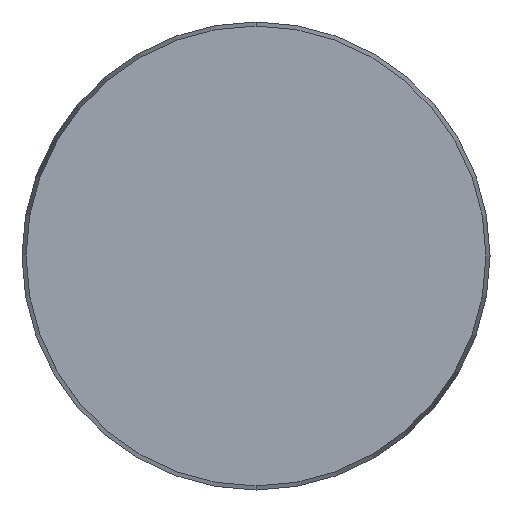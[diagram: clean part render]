
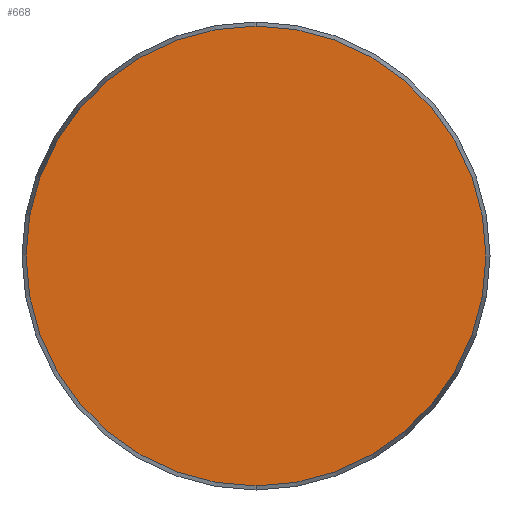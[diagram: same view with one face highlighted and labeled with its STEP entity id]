
A CAD part, front view. The second image highlights one B-rep face of the part: STEP entity #668.
In plain terms, the highlighted planar face has unit normal (0, -1, 0).
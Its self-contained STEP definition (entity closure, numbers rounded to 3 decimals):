
#22 = AXIS2_PLACEMENT_3D ( 'NONE', #513, #67, #498 ) ;
#43 = VERTEX_POINT ( 'NONE', #56 ) ;
#56 = CARTESIAN_POINT ( 'NONE',  ( 0., 0., 19.65 ) ) ;
#67 = DIRECTION ( 'NONE',  ( 0., 1., 0. ) ) ;
#71 = CARTESIAN_POINT ( 'NONE',  ( 0., 0., -19.65 ) ) ;
#128 = CARTESIAN_POINT ( 'NONE',  ( 0., 0., 0. ) ) ;
#152 = FACE_OUTER_BOUND ( 'NONE', #390, .T. ) ;
#188 = ORIENTED_EDGE ( 'NONE', *, *, #640, .F. ) ;
#207 = VERTEX_POINT ( 'NONE', #71 ) ;
#269 = DIRECTION ( 'NONE',  ( 0., 0., 1. ) ) ;
#321 = PLANE ( 'NONE',  #22 ) ;
#350 = CARTESIAN_POINT ( 'NONE',  ( 0., 0., 0. ) ) ;
#390 = EDGE_LOOP ( 'NONE', ( #543, #188 ) ) ;
#466 = DIRECTION ( 'NONE',  ( 0., 1., 0. ) ) ;
#476 = DIRECTION ( 'NONE',  ( 0., 1., 0. ) ) ;
#498 = DIRECTION ( 'NONE',  ( 0., 0., 1. ) ) ;
#500 = DIRECTION ( 'NONE',  ( 0., 0., 1. ) ) ;
#513 = CARTESIAN_POINT ( 'NONE',  ( 19.65, 0., 0. ) ) ;
#543 = ORIENTED_EDGE ( 'NONE', *, *, #616, .F. ) ;
#566 = CIRCLE ( 'NONE', #568, 19.65 ) ;
#568 = AXIS2_PLACEMENT_3D ( 'NONE', #350, #466, #500 ) ;
#570 = CIRCLE ( 'NONE', #572, 19.65 ) ;
#572 = AXIS2_PLACEMENT_3D ( 'NONE', #128, #476, #269 ) ;
#616 = EDGE_CURVE ( 'NONE', #43, #207, #566, .T. ) ;
#640 = EDGE_CURVE ( 'NONE', #207, #43, #570, .T. ) ;
#668 = ADVANCED_FACE ( '1', ( #152 ), #321, .F. ) ;
